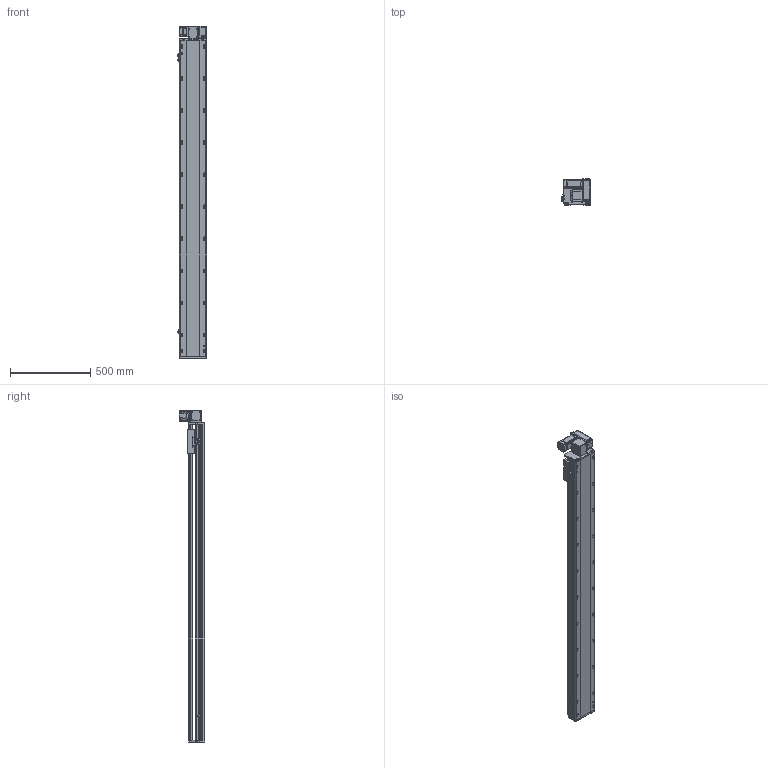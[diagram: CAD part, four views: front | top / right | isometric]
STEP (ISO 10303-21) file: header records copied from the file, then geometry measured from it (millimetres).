
FILE_DESCRIPTION (( 'STEP AP214' ), '1' );
FILE_NAME ('RTB17S-XX-1700-RW-M40-C4.STEP', '2025-12-11T09:05:45', ( '' ), ( '' ), 'SwSTEP 2.0', 'SolidWorks 2018', '' );
FILE_SCHEMA (( 'AUTOMOTIVE_DESIGN' ));
Length unit declared in the file: millimetre
Products named in the file (14): RMP17S-L-014-T20--々湍釱^RTB17S-RW-々湍釱蚾饜-400W_RTB17S-XX-XX-RW-M40-C4; RTB17-R-011菁釱^RTB17S-XX-XX-RW-M40-C4; 400W侜督萇儂^RTB17S-XX-XX-RW-M40-C4; RTB14-L-008-M20--萇儂啣^RTB17S-RW-々湍釱蚾饜-400W_RTB17S-XX-XX-RW-M40-C4; RTB14-L-005P--轴承塑胶压盖^RTB17S-RW-皮带座装配-400W_RTB17S-XX-XX-RW-M40-C4; RTB17S-L-001耜醱啣^RTB17S-XX-XX-RW-M40-C4; OMRON EE-SX672 传感器^RTB17S-XX-XX-RW-M40-C4; RTB17S-L-007奻裔^RTB17S-XX-XX-RW-M40-C4; RTB14-L-018P^RTB17S-RW-々湍釱蚾饜-400W_RTB17S-XX-XX-RW-M40-C4; RTH13-BL-012覜茼え俋离^RTB17S-XX-XX-RW-M40-C4; RTB14-L-017P^RTB17S-RW-々湍釱蚾饜-400W_RTB17S-XX-XX-RW-M40-C4; RTB17S-L-004佪裝蹟譫蟀諉釱^RTB17S-XX-XX-RW-M40-C4; RTB17S-XX-1700-RW-M40-C4; RTB17S-RW-々湍釱蚾饜-400W^RTB17S-XX-XX-RW-M40-C4
Assembly tree (16 placements, depth 3):
  RTB17S-XX-1700-RW-M40-C4
    RTB17-R-011菁釱^RTB17S-XX-XX-RW-M40-C4
    RTB17S-L-007奻裔^RTB17S-XX-XX-RW-M40-C4
    OMRON EE-SX672 传感器^RTB17S-XX-XX-RW-M40-C4  x3
    RTB17S-L-001耜醱啣^RTB17S-XX-XX-RW-M40-C4
    400W侜督萇儂^RTB17S-XX-XX-RW-M40-C4
    RTB17S-L-004佪裝蹟譫蟀諉釱^RTB17S-XX-XX-RW-M40-C4
    RTH13-BL-012覜茼え俋离^RTB17S-XX-XX-RW-M40-C4
    RTB17S-RW-々湍釱蚾饜-400W^RTB17S-XX-XX-RW-M40-C4
      RMP17S-L-014-T20--々湍釱^RTB17S-RW-々湍釱蚾饜-400W_RTB17S-XX-XX-RW-M40-C4
      RTB14-L-005P--轴承塑胶压盖^RTB17S-RW-皮带座装配-400W_RTB17S-XX-XX-RW-M40-C4
      RTB14-L-008-M20--萇儂啣^RTB17S-RW-々湍釱蚾饜-400W_RTB17S-XX-XX-RW-M40-C4
      RTB14-L-017P^RTB17S-RW-々湍釱蚾饜-400W_RTB17S-XX-XX-RW-M40-C4  x2
      RTB14-L-018P^RTB17S-RW-々湍釱蚾饜-400W_RTB17S-XX-XX-RW-M40-C4
Bounding box: 183.5 x 160.5 x 2072.5 mm (x, y, z)
Volume: 18080178.4 mm3; surface area: 2121468.1 mm2
Topology: 15 solids, 15 shells, 2269 faces, 6303 edges, 4113 vertices
Faces by surface type: plane 1076, cylinder 745, bspline 301, cone 139, torus 8
Entity records: 65705 total; most frequent: CARTESIAN_POINT 18508, ORIENTED_EDGE 9450, DIRECTION 8756, EDGE_CURVE 4725, VERTEX_POINT 3101, AXIS2_PLACEMENT_3D 3031, LINE 2694, VECTOR 2694
